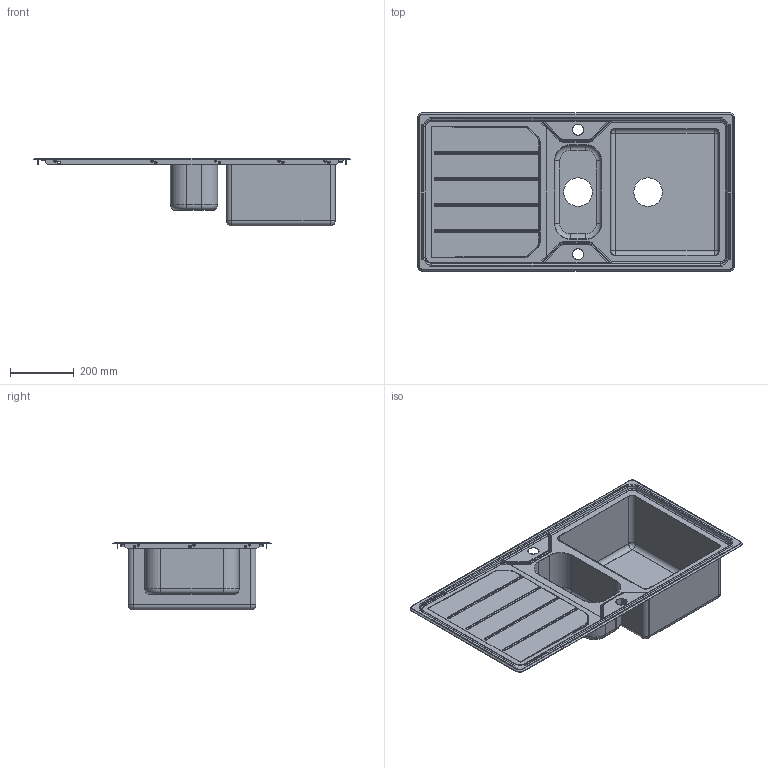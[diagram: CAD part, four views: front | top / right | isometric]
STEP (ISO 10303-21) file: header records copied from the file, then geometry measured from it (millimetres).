
FILE_DESCRIPTION(('CATIA V5 STEP Exchange'),'2;1');
FILE_NAME('C:\Users\linop\Desktop\LDR102-2.stp','2020-11-11T15:14:10+00:00',('none'),('none'),'CATIA Version 5-6 Release 2014','CATIA V5 STEP AP203','none');
FILE_SCHEMA(('CONFIG_CONTROL_DESIGN'));
Length unit declared in the file: millimetre
Products named in the file (1): LDR102-2
Bounding box: 1000 x 500 x 213.6 mm (x, y, z)
Volume: 801246.7 mm3; surface area: 1937563.1 mm2
Topology: 7 solids, 7 shells, 558 faces, 1334 edges, 772 vertices
Faces by surface type: cylinder 260, plane 126, bspline 80, torus 40, sphere 32, cone 12, revolution 8
Entity records: 23604 total; most frequent: CARTESIAN_POINT 12008, ORIENTED_EDGE 2620, DIRECTION 1793, EDGE_CURVE 1310, AXIS2_PLACEMENT_3D 846, VERTEX_POINT 772, EDGE_LOOP 642, ADVANCED_FACE 558
